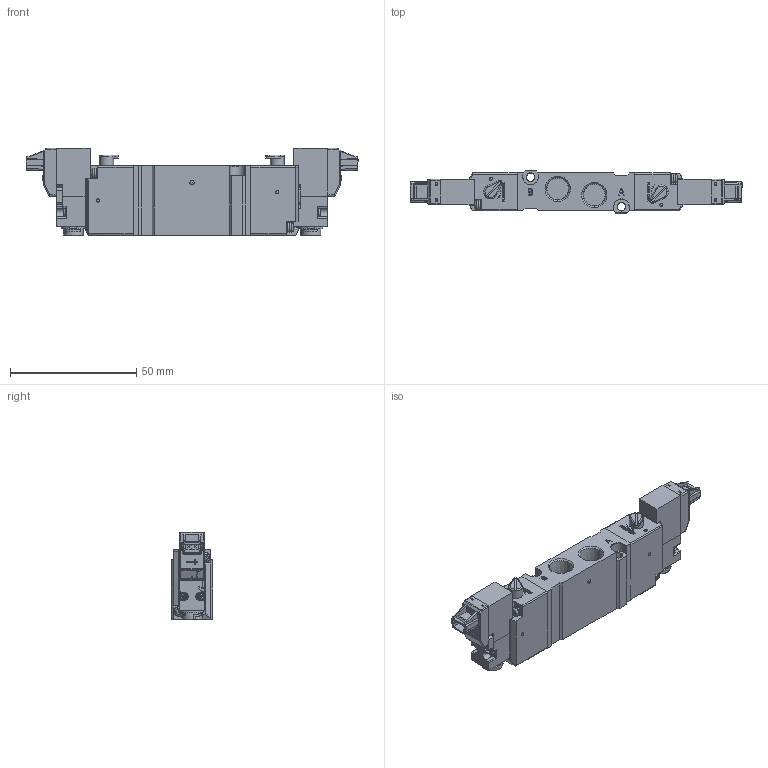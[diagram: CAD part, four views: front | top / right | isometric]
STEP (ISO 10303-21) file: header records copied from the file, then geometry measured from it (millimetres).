
FILE_DESCRIPTION((''),'2;1');
FILE_NAME('W:\技術グループ\Winovation\Winovation Projects\ADEX Valve in-line\ADEX Plus 3D CAD\P2A12RS\P2A12RD25-1P-01_配布用元データ_Shrinkwrap_1.stp','2014-09-24T16:58:16',('HM161442'),(''),'Autodesk Inventor 2013','Autodesk Inventor 2013','');
FILE_SCHEMA(('AUTOMOTIVE_DESIGN { 1 0 10303 214 1 1 1 1 }'));
Length unit declared in the file: millimetre
Products named in the file (1): P2A12RD25-1P-01_配布用元データ_Shrinkwrap_1
Bounding box: 131.5 x 16.6 x 34.6 mm (x, y, z)
Volume: 39257.6 mm3; surface area: 17406 mm2
Topology: 1 solids, 1 shells, 1781 faces, 4642 edges, 2924 vertices
Faces by surface type: plane 1079, cylinder 353, bspline 124, cone 90, torus 72, sphere 63
Full cylindrical faces by diameter (mm): 1 x2, 1.3 x10, 1.7 x1, 2 x4, 2.15 x2, 2.5 x2, 2.6 x2, 2.7 x4, 2.8 x2, 3.5 x4, 3.8 x4, 4.4 x2, 4.5 x2, 5.5 x2, 8 x2, 8.1 x2
Entity records: 61724 total; most frequent: CARTESIAN_POINT 17941, ORIENTED_EDGE 8824, DIRECTION 8399, EDGE_CURVE 4412, VERTEX_POINT 2841, AXIS2_PLACEMENT_3D 2817, VECTOR 2765, LINE 2765
